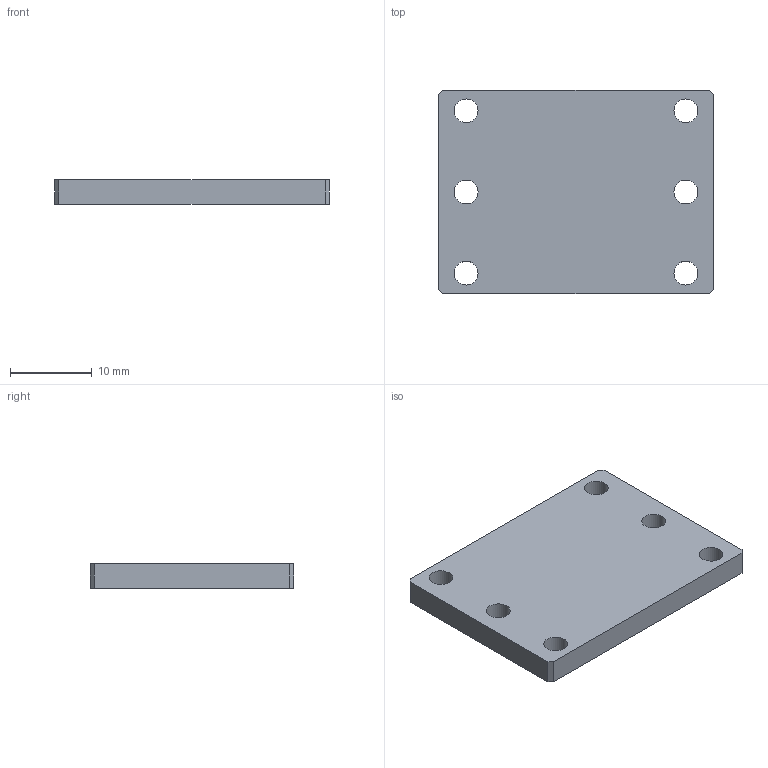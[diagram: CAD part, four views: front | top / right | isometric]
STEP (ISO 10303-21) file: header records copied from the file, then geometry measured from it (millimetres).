
FILE_DESCRIPTION(('Mechanical CAD reference from nasji.com'),'2;1');
FILE_NAME('NASJI.step','',(''),(''),'','NASJI distribution','');
FILE_SCHEMA(('AUTOMOTIVE_DESIGN { 1 0 10303 214 1 1 1 1 }'));
Length unit declared in the file: millimetre
Products named in the file (1): Open CASCADE STEP translator 7.8 86
Bounding box: 33.48 x 24.8 x 3 mm (x, y, z)
Volume: 2370.5 mm3; surface area: 2090.5 mm2
Topology: 1 solids, 1 shells, 16 faces, 42 edges, 28 vertices
Faces by surface type: plane 10, cylinder 6
Full cylindrical faces by diameter (mm): 2.9 x6
Entity records: 1114 total; most frequent: CARTESIAN_POINT 243, DIRECTION 160, LINE 102, VECTOR 102, ORIENTED_EDGE 84, PCURVE 84, DEFINITIONAL_REPRESENTATION 84, EDGE_CURVE 42
